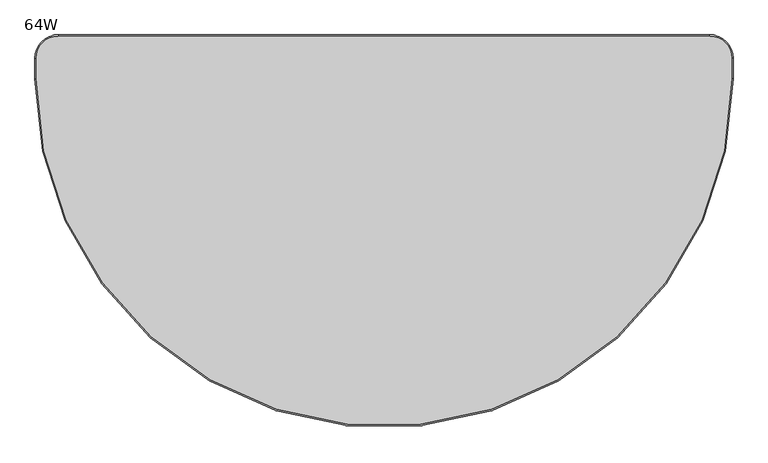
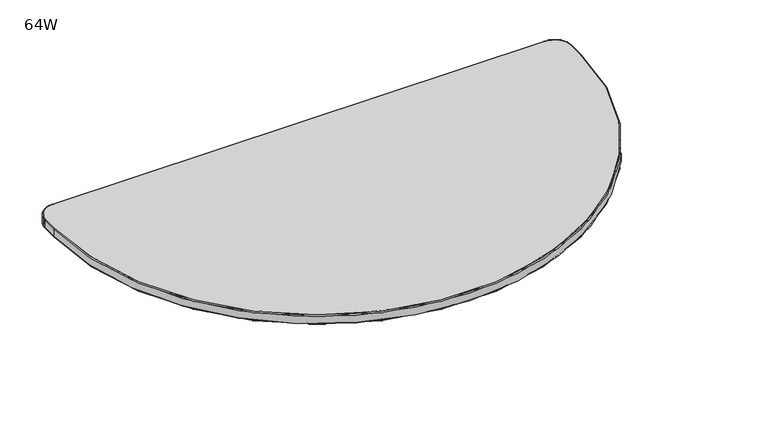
"""IFC4 building model written with IfcOpenShell, lengths in millimetres: furniture geometry, Steelcase - Answer Solution - Universal Table - Spanner : 64W."""

from ifc_helpers import new_model, si_unit, point, frame, frame_2d, origin, place, context, project, spatial, polyline, circle_curve, ellipse_curve, trimmed, segment, composite_curve, outline, extrude, source, transform, mapped, element, save
from ifc_brep_helpers import plane_surface, cylinder_surface, revolved_surface, advanced_brep


def furniture_64w_dc0bf3da(model_context):
    return source(origin(), model_context, "Body", "SolidModel", [
        extrude(outline(composite_curve([segment(polyline([(-758.952, -3.0479999), (758.952, -3.0479999)]), True, "CONTINUOUS"), segment(trimmed(circle_curve(frame_2d((758.952, -53.8479999)), 50.8), [point((758.952, -3.0479999))], [point((809.752, -53.8479999))], False, "CARTESIAN"), True, "CONTINUOUS"), segment(polyline([(809.752, -53.8479999), (809.752, -101.5999999)]), True, "CONTINUOUS"), segment(trimmed(circle_curve(frame_2d((0.0, -101.5999999)), 809.752), [point((809.752, -101.5999999))], [point((-809.752, -101.5999999))], False, "CARTESIAN"), True, "CONTINUOUS"), segment(polyline([(-809.752, -101.5999999), (-809.752, -53.8479999)]), True, "CONTINUOUS"), segment(trimmed(circle_curve(frame_2d((-758.952, -53.8479999)), 50.8), [point((-809.752, -53.8479999))], [point((-758.952, -3.0479999))], False, "CARTESIAN"), True, "CONTINUOUS")], self_intersect=False)), frame((0.0, 0.0, 668.274), z_axis=(0.0, 0.0, 1.0), x_axis=(1.0, 0.0, 0.0)), (0.0, 0.0, 1.0), 30.1752685),
        advanced_brep(
        [(-812.7999999, -53.8479999, 671.3219999), (-758.952, 0.0, 671.3219999), (-758.952, -3.0479999, 668.274), (-809.752, -53.8479999, 668.274), (-812.7999999, -53.8479999, 695.4012686), (-758.952, 0.0, 695.4012686), (-809.752, -53.8479999, 698.4492685), (-758.952, -3.0479999, 698.4492685), (-809.752, -101.5999999, 668.274), (-812.7999999, -101.5999999, 671.3219999), (-812.7999999, -101.5999999, 695.4012686), (-809.752, -101.5999999, 698.4492685), (812.7999999, -101.5999999, 671.3219999), (809.752, -101.5999999, 668.274), (812.7999999, -101.5999999, 695.4012686), (809.752, -101.5999999, 698.4492685), (809.752, -53.8479999, 668.274), (812.7999999, -53.8479999, 671.3219999), (812.7999999, -53.8479999, 695.4012686), (809.752, -53.8479999, 698.4492685), (758.952, 0.0, 671.3219999), (758.952, -3.0479999, 668.274), (758.952, 0.0, 695.4012686), (758.952, -3.0479999, 698.4492685)],
        [
            (0, 1, circle_curve(frame((-758.952, -53.8479999, 671.3219999), z_axis=(0.0, 0.0, -1.0), x_axis=(0.0, 1.0, 0.0)), 53.8479999)),
            (1, 2, circle_curve(frame((-758.952, -3.0479999, 671.3219999), z_axis=(-1.0, 0.0, 0.0), x_axis=(0.0, -1.0, 0.0)), 3.0479999)),
            (2, 3, circle_curve(frame((-758.952, -53.8479999, 668.274), z_axis=(0.0, 0.0, 1.0), x_axis=(0.0, 1.0, 0.0)), 50.8)),
            (3, 0, circle_curve(frame((-809.752, -53.8479999, 671.3219999), z_axis=(0.0, 1.0, 0.0), x_axis=(1.0, 0.0, 0.0)), 3.0479999)),
            (4, 5, circle_curve(frame((-758.952, -53.8479999, 695.4012686), z_axis=(0.0, 0.0, -1.0), x_axis=(0.0, 1.0, 0.0)), 53.8479999)),
            (5, 1),
            (0, 4),
            (6, 7, circle_curve(frame((-758.952, -53.8479999, 698.4492685), z_axis=(0.0, 0.0, -1.0), x_axis=(0.0, 1.0, 0.0)), 50.8)),
            (7, 5, circle_curve(frame((-758.952, -3.0479999, 695.4012686), z_axis=(-1.0, 0.0, 0.0), x_axis=(0.0, -1.0, 0.0)), 3.0479999)),
            (4, 6, circle_curve(frame((-809.752, -53.8479999, 695.4012686), z_axis=(0.0, 1.0, 0.0), x_axis=(1.0, 0.0, 0.0)), 3.0479999)),
            (2, 7),
            (6, 3),
            (3, 8),
            (8, 9, circle_curve(frame((-809.752, -101.5999999, 671.3219999), z_axis=(0.0, 1.0, 0.0), x_axis=(1.0, 0.0, 0.0)), 3.0479999)),
            (9, 0),
            (9, 10),
            (10, 4),
            (10, 11, circle_curve(frame((-809.752, -101.5999999, 695.4012686), z_axis=(0.0, 1.0, 0.0), x_axis=(1.0, 0.0, 0.0)), 3.0479999)),
            (11, 6),
            (11, 8),
            (12, 9, circle_curve(frame((0.0, -101.5999999, 671.3219999), z_axis=(0.0, 0.0, -1.0), x_axis=(-1.0, 0.0, 0.0)), 812.7999999)),
            (8, 13, circle_curve(frame((0.0, -101.5999999, 668.274), z_axis=(0.0, 0.0, 1.0), x_axis=(-1.0, 0.0, 0.0)), 809.752)),
            (13, 12, circle_curve(frame((809.752, -101.5999999, 671.3219999), z_axis=(0.0, -1.0, 0.0), x_axis=(-1.0, 0.0, 0.0)), 3.0479999)),
            (14, 10, circle_curve(frame((0.0, -101.5999999, 695.4012686), z_axis=(0.0, 0.0, -1.0), x_axis=(-1.0, 0.0, 0.0)), 812.7999999)),
            (12, 14),
            (15, 11, circle_curve(frame((0.0, -101.5999999, 698.4492685), z_axis=(0.0, 0.0, -1.0), x_axis=(-1.0, 0.0, 0.0)), 809.752)),
            (14, 15, circle_curve(frame((809.752, -101.5999999, 695.4012686), z_axis=(0.0, -1.0, 0.0), x_axis=(-1.0, 0.0, 0.0)), 3.0479999)),
            (15, 13),
            (13, 16),
            (16, 17, circle_curve(frame((809.752, -53.8479999, 671.3219999), z_axis=(0.0, -1.0, 0.0), x_axis=(-1.0, 0.0, 0.0)), 3.0479999)),
            (17, 12),
            (17, 18),
            (18, 14),
            (18, 19, circle_curve(frame((809.752, -53.8479999, 695.4012686), z_axis=(0.0, -1.0, 0.0), x_axis=(-1.0, 0.0, 0.0)), 3.0479999)),
            (19, 15),
            (19, 16),
            (20, 17, circle_curve(frame((758.952, -53.8479999, 671.3219999), z_axis=(0.0, 0.0, -1.0), x_axis=(1.0, 0.0, 0.0)), 53.8479999)),
            (16, 21, circle_curve(frame((758.952, -53.8479999, 668.274), z_axis=(0.0, 0.0, 1.0), x_axis=(1.0, 0.0, 0.0)), 50.8)),
            (21, 20, circle_curve(frame((758.952, -3.0479999, 671.3219999), z_axis=(1.0, 0.0, 0.0), x_axis=(0.0, -1.0, 0.0)), 3.0479999)),
            (22, 18, circle_curve(frame((758.952, -53.8479999, 695.4012686), z_axis=(0.0, 0.0, -1.0), x_axis=(1.0, 0.0, 0.0)), 53.8479999)),
            (20, 22),
            (23, 19, circle_curve(frame((758.952, -53.8479999, 698.4492685), z_axis=(0.0, 0.0, -1.0), x_axis=(1.0, 0.0, 0.0)), 50.8)),
            (22, 23, circle_curve(frame((758.952, -3.0479999, 695.4012686), z_axis=(1.0, 0.0, 0.0), x_axis=(0.0, -1.0, 0.0)), 3.0479999)),
            (23, 21),
            (21, 2),
            (1, 20),
            (5, 22),
            (7, 23),
        ],
        [
            revolved_surface(trimmed(ellipse_curve(frame((-758.952, -3.0479999, 671.3219999), z_axis=(1.0, 0.0, 0.0), x_axis=(0.0, -1.0, 0.0)), 3.0479999, 3.0479999), [point((-758.952, -3.0479999, 668.274))], [point((-758.952, 0.0, 671.3219999))], True, "CARTESIAN"), (-758.952, -53.8479999, 668.274), (0.0, 0.0, 1.0)),
            cylinder_surface(frame((-758.952, -53.8479999, 668.274), z_axis=(0.0, 0.0, 1.0), x_axis=(0.0, 1.0, 0.0)), 53.8479999),
            revolved_surface(trimmed(ellipse_curve(frame((-758.952, -3.0479999, 695.4012686), z_axis=(1.0, 0.0, 0.0), x_axis=(0.0, -1.0, 0.0)), 3.0479999, 3.0479999), [point((-758.952, 0.0, 695.4012686))], [point((-758.952, -3.0479999, 698.4492685))], True, "CARTESIAN"), (-758.952, -53.8479999, 668.274), (0.0, 0.0, 1.0)),
            revolved_surface(polyline([(-758.952, -3.0479999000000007, 698.4492685), (-758.952, -3.0479999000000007, 668.274)]), (-758.952, -53.8479999, 668.274), (0.0, 0.0, 1.0)),
            cylinder_surface(frame((-809.752, -53.8479999, 671.3219999), z_axis=(0.0, 1.0, 0.0), x_axis=(1.0, 0.0, 0.0)), 3.0479999),
            plane_surface(frame((-812.7999999, -53.8479999, 671.3219999), z_axis=(-1.0, 0.0, 0.0), x_axis=(0.0, -1.0, 0.0))),
            cylinder_surface(frame((-809.752, -53.8479999, 695.4012686), z_axis=(0.0, 1.0, 0.0), x_axis=(1.0, 0.0, 0.0)), 3.0479999),
            plane_surface(frame((-809.752, -53.8479999, 698.4492685), z_axis=(1.0, 0.0, 0.0), x_axis=(0.0, -1.0, 0.0))),
            revolved_surface(trimmed(ellipse_curve(frame((-809.752, -101.5999999, 671.3219999), z_axis=(0.0, 1.0, 0.0), x_axis=(1.0, 0.0, 0.0)), 3.0479999, 3.0479999), [point((-809.752, -101.5999999, 668.274))], [point((-812.7999999, -101.5999999, 671.3219999))], True, "CARTESIAN"), (0.0, -101.5999999, 668.274), (0.0, 0.0, 1.0)),
            cylinder_surface(frame((0.0, -101.5999999, 668.274), z_axis=(0.0, 0.0, 1.0), x_axis=(-1.0, 0.0, 0.0)), 812.7999999),
            revolved_surface(trimmed(ellipse_curve(frame((-809.752, -101.5999999, 695.4012686), z_axis=(0.0, 1.0, 0.0), x_axis=(1.0, 0.0, 0.0)), 3.0479999, 3.0479999), [point((-812.7999999, -101.5999999, 695.4012686))], [point((-809.752, -101.5999999, 698.4492685))], True, "CARTESIAN"), (0.0, -101.5999999, 668.274), (0.0, 0.0, 1.0)),
            revolved_surface(polyline([(-809.752, -101.5999999, 698.4492685), (-809.752, -101.5999999, 668.274)]), (0.0, -101.5999999, 668.274), (0.0, 0.0, 1.0)),
            cylinder_surface(frame((809.752, -101.5999999, 671.3219999), z_axis=(0.0, -1.0, 0.0), x_axis=(-1.0, 0.0, 0.0)), 3.0479999),
            plane_surface(frame((812.7999999, -101.5999999, 671.3219999), z_axis=(1.0, 0.0, 0.0), x_axis=(0.0, 1.0, 0.0))),
            cylinder_surface(frame((809.752, -101.5999999, 695.4012686), z_axis=(0.0, -1.0, 0.0), x_axis=(-1.0, 0.0, 0.0)), 3.0479999),
            plane_surface(frame((809.752, -101.5999999, 698.4492685), z_axis=(-1.0, 0.0, 0.0), x_axis=(0.0, 1.0, 0.0))),
            revolved_surface(trimmed(ellipse_curve(frame((809.752, -53.8479999, 671.3219999), z_axis=(0.0, -1.0, 0.0), x_axis=(-1.0, 0.0, 0.0)), 3.0479999, 3.0479999), [point((809.752, -53.8479999, 668.274))], [point((812.7999999, -53.8479999, 671.3219999))], True, "CARTESIAN"), (758.952, -53.8479999, 668.274), (0.0, 0.0, 1.0)),
            cylinder_surface(frame((758.952, -53.8479999, 668.274), z_axis=(0.0, 0.0, 1.0), x_axis=(1.0, 0.0, 0.0)), 53.8479999),
            revolved_surface(trimmed(ellipse_curve(frame((809.752, -53.8479999, 695.4012686), z_axis=(0.0, -1.0, 0.0), x_axis=(-1.0, 0.0, 0.0)), 3.0479999, 3.0479999), [point((812.7999999, -53.8479999, 695.4012686))], [point((809.752, -53.8479999, 698.4492685))], True, "CARTESIAN"), (758.952, -53.8479999, 668.274), (0.0, 0.0, 1.0)),
            revolved_surface(polyline([(809.752, -53.8479999, 698.4492685), (809.752, -53.8479999, 668.274)]), (758.952, -53.8479999, 668.274), (0.0, 0.0, 1.0)),
            cylinder_surface(frame((758.952, -3.0479999, 671.3219999), z_axis=(1.0, 0.0, 0.0), x_axis=(0.0, -1.0, 0.0)), 3.0479999),
            plane_surface(frame((758.952, 0.0, 671.3219999), z_axis=(0.0, 1.0, 0.0), x_axis=(-1.0, 0.0, 0.0))),
            cylinder_surface(frame((758.952, -3.0479999, 695.4012686), z_axis=(1.0, 0.0, 0.0), x_axis=(0.0, -1.0, 0.0)), 3.0479999),
            plane_surface(frame((758.952, -3.0479999, 698.4492685), z_axis=(0.0, -1.0, 0.0), x_axis=(-1.0, 0.0, 0.0))),
        ],
        [
            (0, [[1, 2, 3, 4]]),
            (1, [[5, 6, -1, 7]]),
            (2, [[8, 9, -5, 10]]),
            (3, [[-3, 11, -8, 12]]),
            (4, [[-4, 13, 14, 15]]),
            (5, [[-7, -15, 16, 17]]),
            (6, [[-10, -17, 18, 19]]),
            (7, [[-12, -19, 20, -13]]),
            (8, [[21, -14, 22, 23]]),
            (9, [[24, -16, -21, 25]]),
            (10, [[26, -18, -24, 27]]),
            (11, [[-22, -20, -26, 28]]),
            (12, [[-23, 29, 30, 31]]),
            (13, [[-25, -31, 32, 33]]),
            (14, [[-27, -33, 34, 35]]),
            (15, [[-28, -35, 36, -29]]),
            (16, [[37, -30, 38, 39]]),
            (17, [[40, -32, -37, 41]]),
            (18, [[42, -34, -40, 43]]),
            (19, [[-38, -36, -42, 44]]),
            (20, [[-39, 45, -2, 46]]),
            (21, [[-41, -46, -6, 47]]),
            (22, [[-43, -47, -9, 48]]),
            (23, [[-44, -48, -11, -45]]),
        ],
    ),
    ])


if __name__ == "__main__":
    model = new_model("IFC4")
    model_context = context("Model", 3, world=origin())
    ifc_project = project(units=[si_unit("LENGTHUNIT", "METRE", prefix="MILLI")], contexts=[model_context])
    site = spatial("IfcSite", under=ifc_project)
    building = spatial("IfcBuilding", under=site)
    placement = place(None, origin())
    furniture_64w_shape = furniture_64w_dc0bf3da(model_context)
    element("IfcFurniture", 1, ObjectType="Steelcase - Answer Solution - Universal Table - Spanner : 64W", at=placement, inside=building, context=model_context, shape_type="MappedRepresentation", body=[
        mapped(furniture_64w_shape, transform((0.0, 0.0, 0.0), x_axis=(1.0, 0.0, 0.0), y_axis=(0.0, 1.0, 0.0), z_axis=(0.0, 0.0, 1.0))),
    ])
    save(model, "model.ifc")
